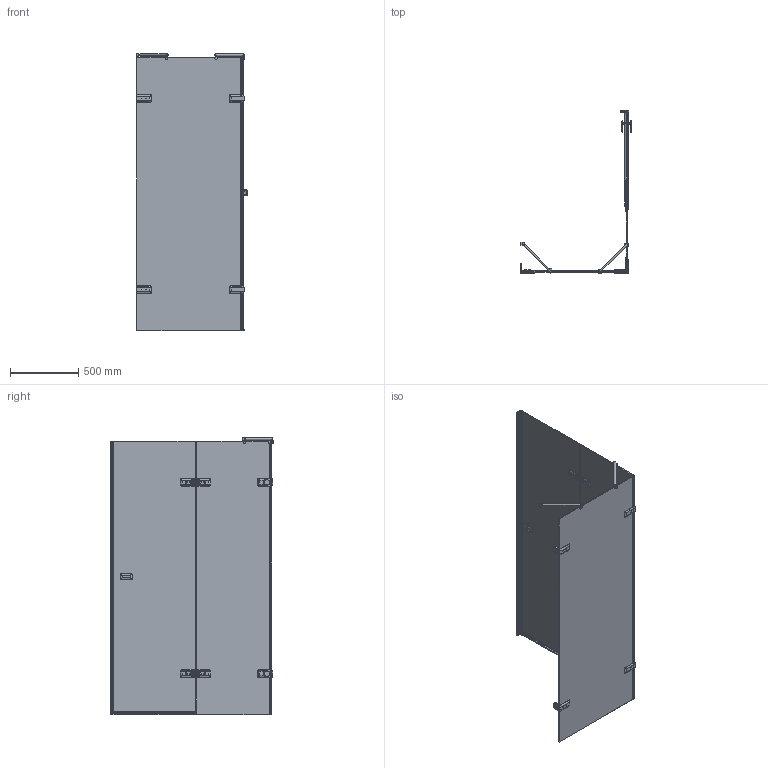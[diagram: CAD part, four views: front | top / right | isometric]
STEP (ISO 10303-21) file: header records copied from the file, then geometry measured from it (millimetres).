
FILE_DESCRIPTION(/* description */ (''),/* implementation_level */ '2;1');
FILE_NAME(/* name */ 'D:\!\!!!\TREND RECTAN GK-863D\TREND RECTAN GK-863D левая модель\TREND RECTAN GK-863D ЛЕВАЯ-3D.stp',/* time_stamp */ '2020-03-23T18:29:31+03:00',/* author */ ('User'),/* organization */ (''),/* preprocessor_version */ 'ST-DEVELOPER v15.2',/* originating_system */ 'Autodesk Inventor 2014',/* authorisation */ '');
FILE_SCHEMA (('AUTOMOTIVE_DESIGN { 1 0 10303 214 3 1 1 }'));
Products named in the file (1): TREND RECTAN GK-863D ЛЕВАЯ-3D
Bounding box: 812.5 x 1193 x 2031.5 mm (x, y, z)
Volume: 25200666.6 mm3; surface area: 8448506.1 mm2
Topology: 4 solids, 33 shells, 1806 faces, 4639 edges, 2882 vertices
Faces by surface type: plane 1015, cylinder 484, bspline 188, torus 52, cone 44, sphere 23
Full cylindrical faces by diameter (mm): 4 x2, 4.134 x2, 4.917 x4, 5 x6, 5.2 x2, 6 x6, 7.2 x4, 8 x2, 9 x8, 11 x2, 12 x3, 13 x12, 15 x2, 16 x12, 20 x4, 26 x1, 28 x2, 28.5 x2, 40 x2
Entity records: 74805 total; most frequent: CARTESIAN_POINT 30971, ORIENTED_EDGE 8746, DIRECTION 8402, EDGE_CURVE 4369, AXIS2_PLACEMENT_3D 2887, VERTEX_POINT 2803, LINE 2628, VECTOR 2628
